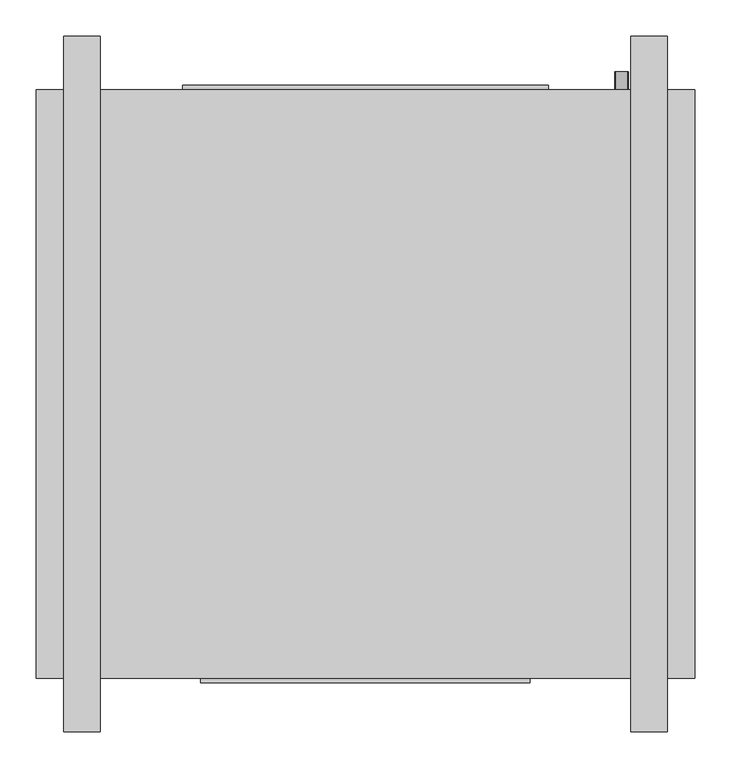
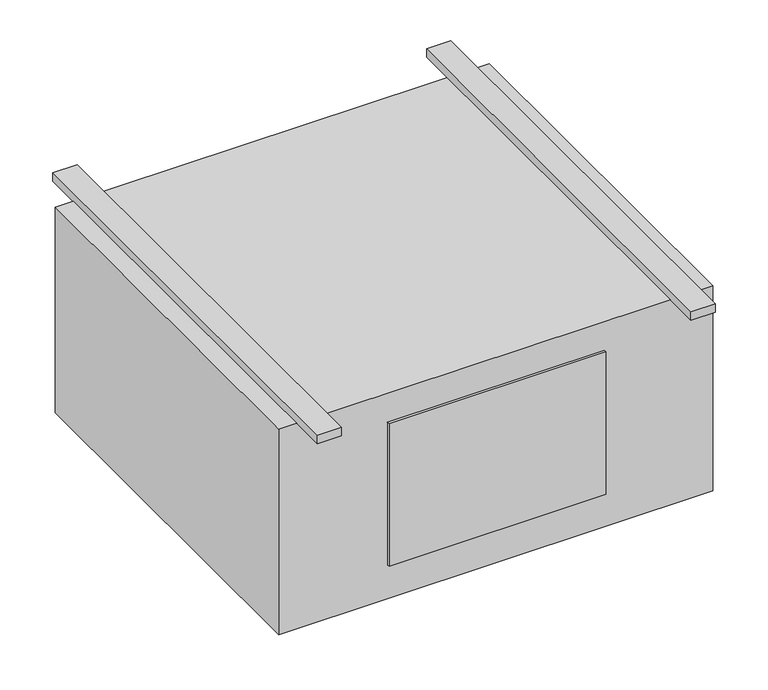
"""IFC4 building model written with IfcOpenShell, lengths in millimetres: proxy geometry, Exposed_High_Capacity_Horizontal_Cabinet_Fan_Coil_Unit_-_42DFA_-_CARRIER_-_4-Pipe_RH_2022 : Size 08 - 277v/60Hz/1Ph - 6/2 Coil."""

import ifcopenshell
import ifcopenshell.guid

model = None  # the IFC model being written
_history = None  # IfcOwnerHistory: only IFC2X3 demands one
_inside = {}  # id of a spatial element -> (the spatial element, [elements in it])
_under = {}  # id of a project, library or spatial element -> (it, [spatial elements below it])
_declared = {}  # id of a project -> (the project, [libraries it declares])
_typed = {}  # id of a type object -> (the type object, [elements of that type])
_made_of = {}  # id of a material, layer set ... -> (it, [elements and type objects made of it])


def new_model(schema):
    """Start an empty IFC model of exactly this schema.

    Asked for "IFC4X3", IfcOpenShell would pick the latest addendum, in which some entities
    have other attributes; the version numbers below select the first issue.
    IFC2X3 requires an IfcOwnerHistory on every rooted entity: one is made here for all.
    """
    global model, _history
    if schema == "IFC4X3":
        model = ifcopenshell.file(schema_version=(4, 3, 0, 0))
    else:
        model = ifcopenshell.file(schema=schema)
    _inside.clear()
    _under.clear()
    _declared.clear()
    _typed.clear()
    _made_of.clear()
    _history = None
    if model.schema == "IFC2X3":
        org = make("IfcOrganization", Name="unknown")
        user = make(
            "IfcPersonAndOrganization",
            ThePerson=make("IfcPerson", FamilyName="unknown"),
            TheOrganization=org,
        )
        app = make(
            "IfcApplication",
            ApplicationDeveloper=org,
            Version="unknown",
            ApplicationFullName="unknown",
            ApplicationIdentifier="unknown",
        )
        _history = make(
            "IfcOwnerHistory",
            OwningUser=user,
            OwningApplication=app,
            ChangeAction="ADDED",
            CreationDate=0,
        )
    return model


def make(cls, **values):
    """One entity of the class cls with the attributes given. An attribute that is None is left unset."""
    return model.create_entity(
        cls, **{name: value for name, value in values.items() if value is not None}
    )


def rooted(cls, **values):
    """An entity with a GlobalId (a new one), such as an element, a storey or a relation."""
    return make(cls, GlobalId=ifcopenshell.guid.new(), OwnerHistory=_history, **values)


def si_unit(unit_type, name, prefix=None):
    """IfcSIUnit, for example si_unit("LENGTHUNIT", "METRE", prefix="MILLI")."""
    return make("IfcSIUnit", UnitType=unit_type, Prefix=prefix, Name=name)


def assignment(units):
    """IfcUnitAssignment: the units of a project."""
    return None if units is None else make("IfcUnitAssignment", Units=units)


def point(xyz):
    """IfcCartesianPoint."""
    return None if xyz is None else make("IfcCartesianPoint", Coordinates=xyz)


def direction(xyz):
    """IfcDirection."""
    return None if xyz is None else make("IfcDirection", DirectionRatios=xyz)


def frame(location, z_axis=None, x_axis=None):
    """IfcAxis2Placement3D, a coordinate frame: its origin and axes. An axis left out is left unset."""
    return make(
        "IfcAxis2Placement3D",
        Location=point(location),
        Axis=direction(z_axis),
        RefDirection=direction(x_axis),
    )


def frame_2d(location, x_axis=None):
    """IfcAxis2Placement2D, a coordinate frame in the plane: its origin and x axis."""
    return make(
        "IfcAxis2Placement2D", Location=point(location), RefDirection=direction(x_axis)
    )


def origin():
    """The frame at (0, 0, 0) with its axes left unset."""
    return frame((0.0, 0.0, 0.0))


def origin_with_axes():
    """The frame at (0, 0, 0) with the z axis (0, 0, 1) and the x axis (1, 0, 0) written out."""
    return frame((0.0, 0.0, 0.0), z_axis=(0.0, 0.0, 1.0), x_axis=(1.0, 0.0, 0.0))


def place(relative_to, where):
    """IfcLocalPlacement: puts the frame where relative to a parent placement (None: the world)."""
    return make(
        "IfcLocalPlacement", PlacementRelTo=relative_to, RelativePlacement=where
    )


def context(
    kind, dimensions, precision=None, world=None, true_north=None, identifier=None
):
    """IfcGeometricRepresentationContext, for example the 3D "Model" context."""
    return make(
        "IfcGeometricRepresentationContext",
        ContextIdentifier=identifier,
        ContextType=kind,
        CoordinateSpaceDimension=dimensions,
        Precision=precision,
        WorldCoordinateSystem=world,
        TrueNorth=true_north,
    )


def project(units=None, contexts=None):
    """IfcProject with its units and contexts."""
    return rooted(
        "IfcProject",
        Name="project",
        RepresentationContexts=contexts,
        UnitsInContext=assignment(units),
    )


def spatial(cls, under=None, at=None, **own):
    """A site, building, storey or space (cls), placed at a placement, below another one or the project."""
    s = rooted(cls, ObjectPlacement=at, **own)
    if under is not None:
        _under.setdefault(under.id(), (under, []))[1].append(s)
    return s


def polyline(points):
    """IfcPolyline through the points."""
    return make("IfcPolyline", Points=[point(p) for p in points])


def circle_curve(where, radius):
    """IfcCircle in the frame where."""
    return make("IfcCircle", Position=where, Radius=radius)


def trimmed(basis, trim1, trim2, sense, master):
    """IfcTrimmedCurve: the piece of a basis curve between two trims."""
    return make(
        "IfcTrimmedCurve",
        BasisCurve=basis,
        Trim1=trim1,
        Trim2=trim2,
        SenseAgreement=sense,
        MasterRepresentation=master,
    )


def segment(curve, same_sense, transition):
    """IfcCompositeCurveSegment."""
    return make(
        "IfcCompositeCurveSegment",
        Transition=transition,
        SameSense=same_sense,
        ParentCurve=curve,
    )


def composite_curve(segments, self_intersect=None):
    """IfcCompositeCurve: segments joined end to end."""
    return make("IfcCompositeCurve", Segments=segments, SelfIntersect=self_intersect)


def outline(outer, holes=None, kind="AREA"):
    """IfcArbitraryClosedProfileDef: a profile drawn as a closed curve; with holes, ...WithVoids."""
    if holes is None:
        return make("IfcArbitraryClosedProfileDef", ProfileType=kind, OuterCurve=outer)
    return make(
        "IfcArbitraryProfileDefWithVoids",
        ProfileType=kind,
        OuterCurve=outer,
        InnerCurves=holes,
    )


def extrude(swept, where, along, depth):
    """IfcExtrudedAreaSolid: the profile swept, set in the frame where, extruded along a direction by depth."""
    return make(
        "IfcExtrudedAreaSolid",
        SweptArea=swept,
        Position=where,
        ExtrudedDirection=direction(along),
        Depth=depth,
    )


def shape(context_of_items, identifier, shape_type, items):
    """IfcShapeRepresentation: the items that make up one representation, for example the "Body"."""
    return make(
        "IfcShapeRepresentation",
        ContextOfItems=context_of_items,
        RepresentationIdentifier=identifier,
        RepresentationType=shape_type,
        Items=items,
    )


def source(mapping_origin, context_of_items, identifier, shape_type, items):
    """IfcRepresentationMap: a shape defined once, which mapped items show again and again."""
    return make(
        "IfcRepresentationMap",
        MappingOrigin=mapping_origin,
        MappedRepresentation=shape(context_of_items, identifier, shape_type, items),
    )


def transform(
    local_origin,
    x_axis=None,
    y_axis=None,
    z_axis=None,
    scale=None,
    scale2=None,
    scale3=None,
    uniform=True,
):
    """IfcCartesianTransformationOperator3D, or its non-uniform kind. x_axis, y_axis, z_axis: its Axis1, 2, 3."""
    if uniform:
        return make(
            "IfcCartesianTransformationOperator3D",
            Axis1=direction(x_axis),
            Axis2=direction(y_axis),
            LocalOrigin=point(local_origin),
            Scale=scale,
            Axis3=direction(z_axis),
        )
    return make(
        "IfcCartesianTransformationOperator3DnonUniform",
        Axis1=direction(x_axis),
        Axis2=direction(y_axis),
        LocalOrigin=point(local_origin),
        Scale=scale,
        Axis3=direction(z_axis),
        Scale2=scale2,
        Scale3=scale3,
    )


def mapped(mapping_source, mapping_target):
    """IfcMappedItem: shows the shape of a source again, moved by a transform."""
    return make(
        "IfcMappedItem", MappingSource=mapping_source, MappingTarget=mapping_target
    )


def made_of(thing, what):
    """Note that an element or type object is made of a material, layer set ...; save() writes the relation."""
    if what is not None:
        _made_of.setdefault(what.id(), (what, []))[1].append(thing)
    return thing


def element(
    cls,
    number,
    at=None,
    inside=None,
    cuts=None,
    type_object=None,
    material=None,
    context=None,
    identifier="Body",
    shape_type=None,
    held_by="IfcProductDefinitionShape",
    body=None,
    shapes=None,
    **own,
):
    """One element of the class cls, such as IfcWall. Its Tag is "e" and its number.

    at: its placement. inside: the storey or other place that contains it. cuts: it is an
    opening in that element (IfcRelVoidsElement). A single representation is given by context,
    identifier, shape_type and body (its items); several are given by shapes. held_by: the class
    of the entity that holds the representations. save() writes the other relations.
    """
    e = rooted(cls, Tag="e%d" % number, ObjectPlacement=at, **own)
    if body is not None:
        shapes = [shape(context, identifier, shape_type, body)]
    if shapes is not None:
        e.Representation = make(held_by, Representations=shapes)
    if inside is not None:
        _inside.setdefault(inside.id(), (inside, []))[1].append(e)
    if cuts is not None:
        rooted(
            "IfcRelVoidsElement", RelatingBuildingElement=cuts, RelatedOpeningElement=e
        )
    if type_object is not None:
        _typed.setdefault(type_object.id(), (type_object, []))[1].append(e)
    return made_of(e, material)


def aggregate(whole, parts):
    """IfcRelAggregates: a whole, such as a stair, and the parts it consists of."""
    return rooted("IfcRelAggregates", RelatingObject=whole, RelatedObjects=parts)


def save(model, path):
    """Write the relations noted so far, then the file.

    IfcRelAggregates (storeys below a building ...), IfcRelContainedInSpatialStructure (elements
    in a storey), IfcRelDefinesByType, IfcRelAssociatesMaterial and IfcRelDeclares: one each for
    every whole, place, type object, material and project.
    """
    for whole, parts in _under.values():
        aggregate(whole, parts)
    for where, things in _inside.values():
        rooted(
            "IfcRelContainedInSpatialStructure",
            RelatedElements=things,
            RelatingStructure=where,
        )
    for kind, things in _typed.values():
        rooted("IfcRelDefinesByType", RelatedObjects=things, RelatingType=kind)
    for what, things in _made_of.values():
        rooted("IfcRelAssociatesMaterial", RelatedObjects=things, RelatingMaterial=what)
    for by, libraries in _declared.values():
        rooted("IfcRelDeclares", RelatingContext=by, RelatedDefinitions=libraries)
    model.write(path)


def mechanical_equipment_faba4bf7(model_context):
    return source(origin(), model_context, "Body", "SweptSolid", [
        extrude(outline(composite_curve([segment(trimmed(circle_curve(frame_2d((-406.4, 508.0)), 9.525), [point((-406.4, 498.475))], [point((-406.4, 517.525))], False, "CARTESIAN"), True, "CONTINUOUS"), segment(trimmed(circle_curve(frame_2d((-406.4, 508.0)), 9.525), [point((-406.4, 517.525))], [point((-406.4, 498.475))], False, "CARTESIAN"), True, "CONTINUOUS")], self_intersect=False)), frame((0.0, 169.8625, 0.0), z_axis=(0.0, 1.0, 0.0), x_axis=(0.0, 0.0, 1.0)), (0.0, 0.0, 1.0), 25.4),
        extrude(outline(composite_curve([segment(trimmed(circle_curve(frame_2d((-330.2, 508.0)), 7.9375), [point((-330.2, 500.0625))], [point((-330.2, 515.9375))], False, "CARTESIAN"), True, "CONTINUOUS"), segment(trimmed(circle_curve(frame_2d((-330.2, 508.0)), 7.9375), [point((-330.2, 515.9375))], [point((-330.2, 500.0625))], False, "CARTESIAN"), True, "CONTINUOUS")], self_intersect=False)), frame((0.0, 169.8625, 0.0), z_axis=(0.0, 1.0, 0.0), x_axis=(0.0, 0.0, 1.0)), (0.0, 0.0, 1.0), 25.4),
        extrude(outline(composite_curve([segment(trimmed(circle_curve(frame_2d((-254.0, 508.0)), 7.9375), [point((-254.0, 500.0625))], [point((-254.0, 515.9375))], False, "CARTESIAN"), True, "CONTINUOUS"), segment(trimmed(circle_curve(frame_2d((-254.0, 508.0)), 7.9375), [point((-254.0, 515.9375))], [point((-254.0, 500.0625))], False, "CARTESIAN"), True, "CONTINUOUS")], self_intersect=False)), frame((0.0, 169.8625, 0.0), z_axis=(0.0, 1.0, 0.0), x_axis=(0.0, 0.0, 1.0)), (0.0, 0.0, 1.0), 25.4),
        extrude(outline(composite_curve([segment(trimmed(circle_curve(frame_2d((-177.8, 508.0)), 7.9375), [point((-177.8, 500.0625))], [point((-177.8, 515.9375))], False, "CARTESIAN"), True, "CONTINUOUS"), segment(trimmed(circle_curve(frame_2d((-177.8, 508.0)), 7.9375), [point((-177.8, 515.9375))], [point((-177.8, 500.0625))], False, "CARTESIAN"), True, "CONTINUOUS")], self_intersect=False)), frame((0.0, 169.8625, 0.0), z_axis=(0.0, 1.0, 0.0), x_axis=(0.0, 0.0, 1.0)), (0.0, 0.0, 1.0), 25.4),
        extrude(outline(composite_curve([segment(trimmed(circle_curve(frame_2d((-101.6, 508.0)), 7.9375), [point((-101.6, 500.0625))], [point((-101.6, 515.9375))], False, "CARTESIAN"), True, "CONTINUOUS"), segment(trimmed(circle_curve(frame_2d((-101.6, 508.0)), 7.9375), [point((-101.6, 515.9375))], [point((-101.6, 500.0625))], False, "CARTESIAN"), True, "CONTINUOUS")], self_intersect=False)), frame((0.0, 169.8625, 0.0), z_axis=(0.0, 1.0, 0.0), x_axis=(0.0, 0.0, 1.0)), (0.0, 0.0, 1.0), 25.4),
        extrude(outline(polyline([(609.6, 169.8625), (609.6, -646.1125), (-304.8, -646.1125), (-304.8, 169.8625), (609.6, 169.8625)])), frame((0.0, 0.0, -457.2), z_axis=(0.0, 0.0, 1.0), x_axis=(1.0, 0.0, 0.0)), (0.0, 0.0, 1.0), 457.2),
        extrude(outline(polyline([(-101.6, 176.2125), (406.4, 176.2125), (406.4, 169.8625), (-101.6, 169.8625), (-101.6, 176.2125)])), frame((0.0, 0.0, -381.0), z_axis=(0.0, 0.0, 1.0), x_axis=(1.0, 0.0, 0.0)), (0.0, 0.0, 1.0), 355.6),
        extrude(outline(polyline([(-215.9, 244.475), (-215.9, -720.725), (-266.7, -720.725), (-266.7, 244.475), (-215.9, 244.475)])), origin_with_axes(), (0.0, 0.0, 1.0), 19.05),
        extrude(outline(polyline([(571.5, 244.475), (571.5, -720.725), (520.7, -720.725), (520.7, 244.475), (571.5, 244.475)])), origin_with_axes(), (0.0, 0.0, 1.0), 19.05),
        extrude(outline(polyline([(381.0, -652.4625), (-76.2, -652.4625), (-76.2, -646.1125), (381.0, -646.1125), (381.0, -652.4625)])), frame((0.0, 0.0, -381.0), z_axis=(0.0, 0.0, 1.0), x_axis=(1.0, 0.0, 0.0)), (0.0, 0.0, 1.0), 317.5),
    ])


if __name__ == "__main__":
    model = new_model("IFC4")
    model_context = context("Model", 3, world=origin())
    ifc_project = project(units=[si_unit("LENGTHUNIT", "METRE", prefix="MILLI")], contexts=[model_context])
    site = spatial("IfcSite", under=ifc_project)
    building = spatial("IfcBuilding", under=site)
    placement = place(None, origin())
    mechanical_equipment_shape = mechanical_equipment_faba4bf7(model_context)
    element("IfcBuildingElementProxy", 1, Name="Exposed_High_Capacity_Horizontal_Cabinet_Fan_Coil_Unit_-_42DFA_-_CARRIER_-_4-Pipe_RH_2022 : Size 08 - 277v/60Hz/1Ph - 6/2 Coil", ObjectType="Exposed_High_Capacity_Horizontal_Cabinet_Fan_Coil_Unit_-_42DFA_-_CARRIER_-_4-Pipe_RH_2022 : Size 08 - 277v/60Hz/1Ph - 6/2 Coil", at=placement, inside=building, context=model_context, shape_type="MappedRepresentation", body=[
        mapped(mechanical_equipment_shape, transform((0.0, 0.0, 0.0), x_axis=(1.0, 0.0, 0.0), y_axis=(0.0, 1.0, 0.0), z_axis=(0.0, 0.0, 1.0))),
    ])
    save(model, "model.ifc")
